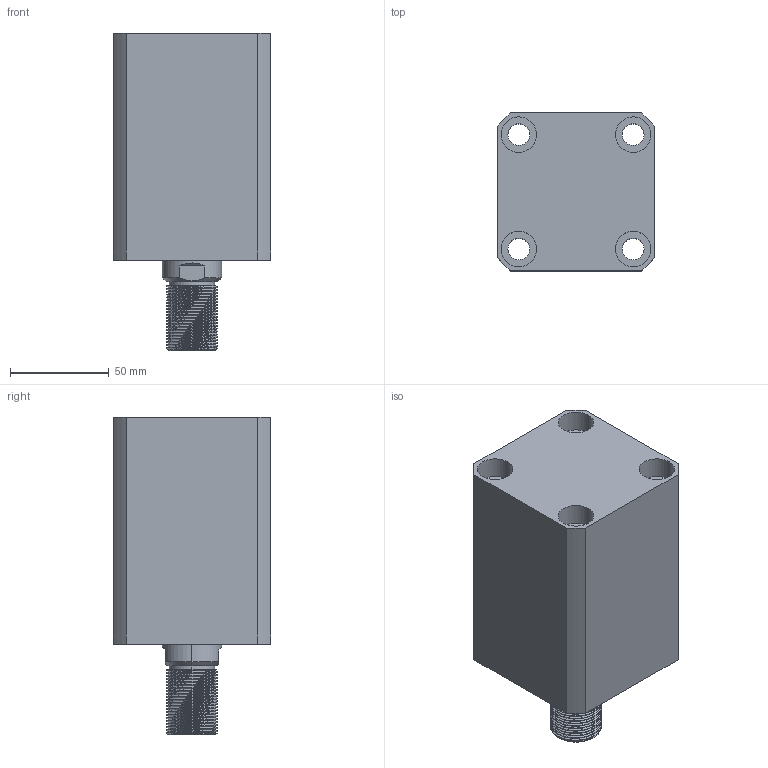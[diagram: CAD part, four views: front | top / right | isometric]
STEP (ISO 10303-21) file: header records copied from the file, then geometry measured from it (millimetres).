
FILE_DESCRIPTION (( 'STEP AP203' ), '1' );
FILE_NAME ('CHTB-SD50-55W.STEP', '2018-05-18T12:53:47', ( '' ), ( '' ), 'SwSTEP 2.0', 'SolidWorks 2015', '' );
FILE_SCHEMA (( 'CONFIG_CONTROL_DESIGN' ));
Length unit declared in the file: millimetre
Products named in the file (4): 掛极SD50-55W; 活塞杆SD50-55W; CHTB-SD50-55W; CHTM-SD50QG
Assembly tree (3 placements, depth 2):
  CHTB-SD50-55W
    掛极SD50-55W
    活塞杆SD50-55W
    CHTM-SD50QG
Bounding box: 80 x 80 x 161 mm (x, y, z)
Volume: 617062.7 mm3; surface area: 119836.5 mm2
Topology: 3 solids, 3 shells, 236 faces, 627 edges, 419 vertices
Faces by surface type: cylinder 144, plane 41, cone 19, bspline 16, torus 16
Entity records: 14613 total; most frequent: CARTESIAN_POINT 8784, ORIENTED_EDGE 1246, DIRECTION 1029, EDGE_CURVE 623, AXIS2_PLACEMENT_3D 422, VERTEX_POINT 419, EDGE_LOOP 276, FACE_OUTER_BOUND 236
